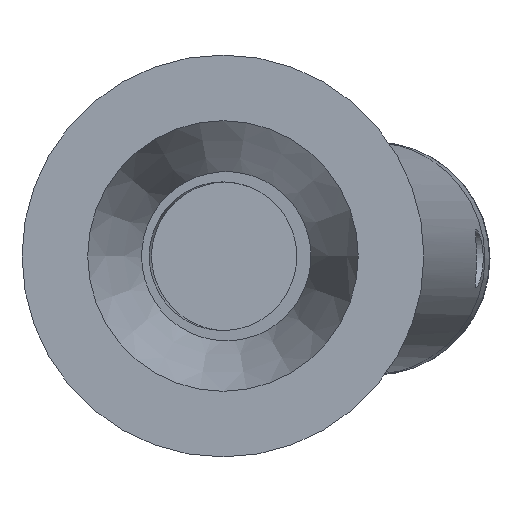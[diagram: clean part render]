
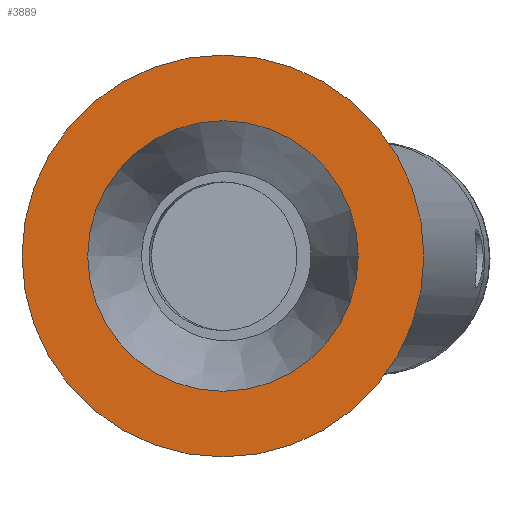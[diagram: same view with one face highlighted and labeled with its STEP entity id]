
A CAD part, top view. The second image highlights one B-rep face of the part: STEP entity #3889.
In plain terms, the highlighted planar face has unit normal (0, 0, 1).
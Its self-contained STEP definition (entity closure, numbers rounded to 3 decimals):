
#2547 = CONICAL_SURFACE('',#2548,7.,0.255);
#2548 = AXIS2_PLACEMENT_3D('',#2549,#2550,#2551);
#2549 = CARTESIAN_POINT('',(-40.5,0.,74.));
#2550 = DIRECTION('',(0.,0.,1.));
#2551 = DIRECTION('',(1.,0.,0.));
#3835 = VERTEX_POINT('',#3836);
#3836 = CARTESIAN_POINT('',(-30.5,0.,85.5));
#3854 = EDGE_CURVE('',#3835,#3835,#3855,.T.);
#3855 = SURFACE_CURVE('',#3856,(#3861,#3868),.PCURVE_S1.);
#3856 = CIRCLE('',#3857,10.);
#3857 = AXIS2_PLACEMENT_3D('',#3858,#3859,#3860);
#3858 = CARTESIAN_POINT('',(-40.5,0.,85.5));
#3859 = DIRECTION('',(0.,0.,1.));
#3860 = DIRECTION('',(1.,0.,0.));
#3861 = PCURVE('',#2547,#3862);
#3862 = DEFINITIONAL_REPRESENTATION('',(#3863),#3867);
#3863 = LINE('',#3864,#3865);
#3864 = CARTESIAN_POINT('',(0.,11.5));
#3865 = VECTOR('',#3866,1.);
#3866 = DIRECTION('',(1.,0.));
#3867 = ( GEOMETRIC_REPRESENTATION_CONTEXT(2) 
PARAMETRIC_REPRESENTATION_CONTEXT() REPRESENTATION_CONTEXT('2D SPACE',''
  ) );
#3868 = PCURVE('',#3869,#3874);
#3869 = PLANE('',#3870);
#3870 = AXIS2_PLACEMENT_3D('',#3871,#3872,#3873);
#3871 = CARTESIAN_POINT('',(-40.5,0.,85.5));
#3872 = DIRECTION('',(0.,0.,1.));
#3873 = DIRECTION('',(1.,0.,0.));
#3874 = DEFINITIONAL_REPRESENTATION('',(#3875),#3879);
#3875 = CIRCLE('',#3876,10.);
#3876 = AXIS2_PLACEMENT_2D('',#3877,#3878);
#3877 = CARTESIAN_POINT('',(0.,0.));
#3878 = DIRECTION('',(1.,0.));
#3879 = ( GEOMETRIC_REPRESENTATION_CONTEXT(2) 
PARAMETRIC_REPRESENTATION_CONTEXT() REPRESENTATION_CONTEXT('2D SPACE',''
  ) );
#3889 = ADVANCED_FACE('',(#3890,#3893),#3869,.T.);
#3890 = FACE_BOUND('',#3891,.T.);
#3891 = EDGE_LOOP('',(#3892));
#3892 = ORIENTED_EDGE('',*,*,#3854,.T.);
#3893 = FACE_BOUND('',#3894,.T.);
#3894 = EDGE_LOOP('',(#3895));
#3895 = ORIENTED_EDGE('',*,*,#3896,.F.);
#3896 = EDGE_CURVE('',#3897,#3897,#3899,.T.);
#3897 = VERTEX_POINT('',#3898);
#3898 = CARTESIAN_POINT('',(-33.769,0.,85.5));
#3899 = SURFACE_CURVE('',#3900,(#3905,#3912),.PCURVE_S1.);
#3900 = CIRCLE('',#3901,6.731);
#3901 = AXIS2_PLACEMENT_3D('',#3902,#3903,#3904);
#3902 = CARTESIAN_POINT('',(-40.5,0.,85.5));
#3903 = DIRECTION('',(0.,0.,1.));
#3904 = DIRECTION('',(1.,0.,-0.));
#3905 = PCURVE('',#3869,#3906);
#3906 = DEFINITIONAL_REPRESENTATION('',(#3907),#3911);
#3907 = CIRCLE('',#3908,6.731);
#3908 = AXIS2_PLACEMENT_2D('',#3909,#3910);
#3909 = CARTESIAN_POINT('',(0.,0.));
#3910 = DIRECTION('',(1.,0.));
#3911 = ( GEOMETRIC_REPRESENTATION_CONTEXT(2) 
PARAMETRIC_REPRESENTATION_CONTEXT() REPRESENTATION_CONTEXT('2D SPACE',''
  ) );
#3912 = PCURVE('',#3913,#3918);
#3913 = CONICAL_SURFACE('',#3914,3.7,0.325);
#3914 = AXIS2_PLACEMENT_3D('',#3915,#3916,#3917);
#3915 = CARTESIAN_POINT('',(-40.5,0.,76.5));
#3916 = DIRECTION('',(0.,0.,1.));
#3917 = DIRECTION('',(1.,0.,0.));
#3918 = DEFINITIONAL_REPRESENTATION('',(#3919),#3923);
#3919 = LINE('',#3920,#3921);
#3920 = CARTESIAN_POINT('',(0.,9.));
#3921 = VECTOR('',#3922,1.);
#3922 = DIRECTION('',(1.,0.));
#3923 = ( GEOMETRIC_REPRESENTATION_CONTEXT(2) 
PARAMETRIC_REPRESENTATION_CONTEXT() REPRESENTATION_CONTEXT('2D SPACE',''
  ) );
